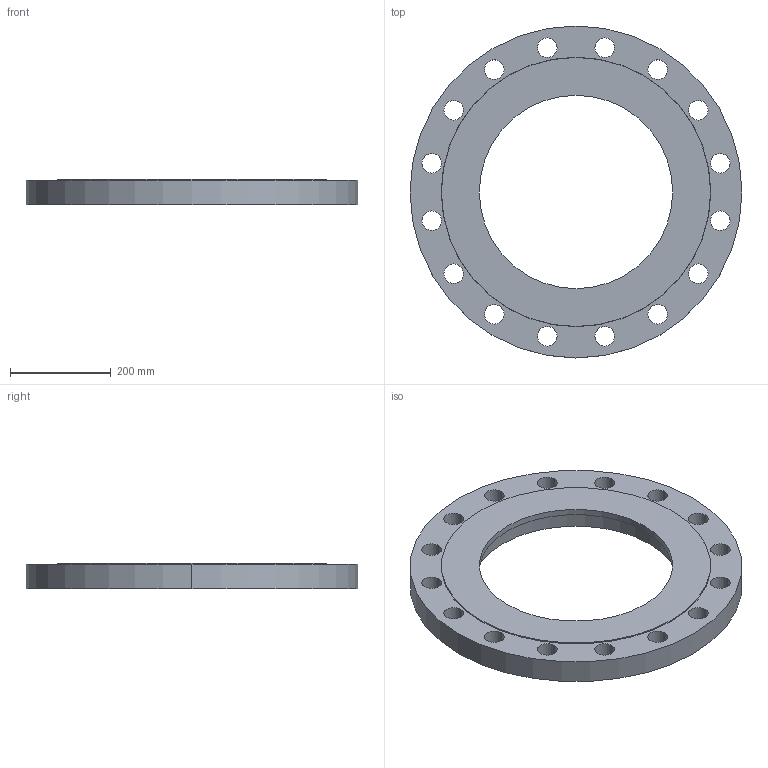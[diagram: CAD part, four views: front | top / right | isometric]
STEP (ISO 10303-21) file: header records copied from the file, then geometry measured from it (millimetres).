
FILE_DESCRIPTION (( 'STEP AP214' ), '1' );
FILE_NAME ('PN40 DN400 Type 05 - Socket (Type B) - Not in Standard.STEP', '2019-01-05T23:22:29', ( '' ), ( '' ), 'SwSTEP 2.0', 'SolidWorks 2019', '' );
FILE_SCHEMA (( 'AUTOMOTIVE_DESIGN' ));
Length unit declared in the file: millimetre
Products named in the file (1): PN40 DN400 Type 05 - Socket (Type B) - Not in Standard
Bounding box: 660 x 660 x 50 mm (x, y, z)
Volume: 9528684.2 mm3; surface area: 673866.1 mm2
Topology: 1 solids, 1 shells, 44 faces, 120 edges, 80 vertices
Faces by surface type: cylinder 38, plane 4, cone 2
Entity records: 1546 total; most frequent: DIRECTION 290, CARTESIAN_POINT 245, ORIENTED_EDGE 240, AXIS2_PLACEMENT_3D 125, EDGE_CURVE 120, CIRCLE 80, VERTEX_POINT 80, EDGE_LOOP 80
